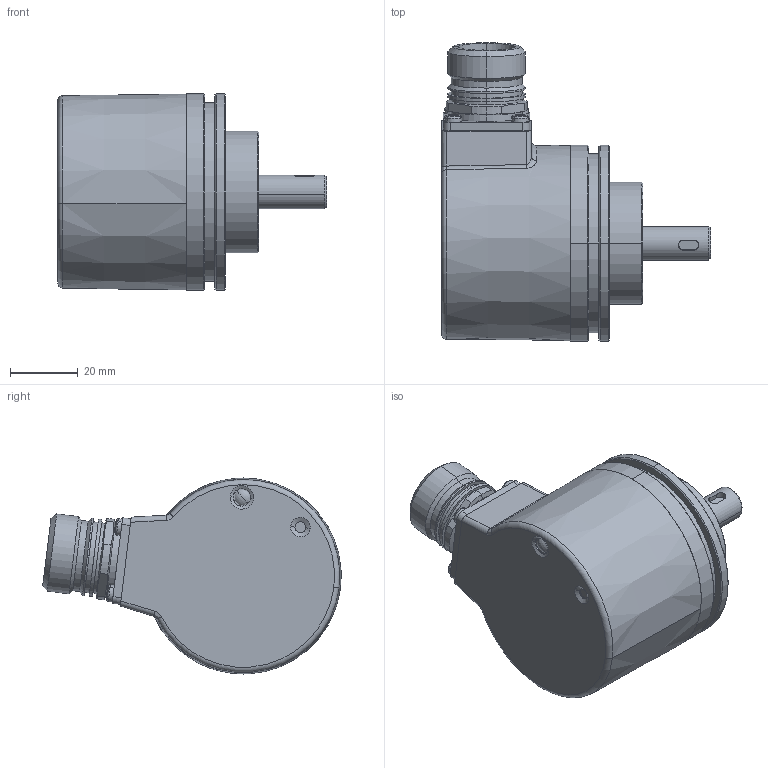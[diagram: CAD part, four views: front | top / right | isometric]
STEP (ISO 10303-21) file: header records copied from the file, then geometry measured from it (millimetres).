
FILE_DESCRIPTION (( 'STEP AP214' ), '1' );
FILE_NAME ('5863SIL.1AX4.XXXX.STEP', '2010-11-03T07:57:30', ( 'admin' ), ( 'Fritz Kübler GmbH' ), 'SwSTEP 2.0', 'SolidWorks 2009', '' );
FILE_SCHEMA (( 'AUTOMOTIVE_DESIGN' ));
Length unit declared in the file: millimetre
Products named in the file (1): 5863SIL.1AX4.XXXX
Bounding box: 79.6 x 88.28 x 58 mm (x, y, z)
Surface area: 24553.3 mm2 (no closed solid volume)
Topology: 0 solids, 27 shells, 332 faces, 853 edges, 542 vertices
Faces by surface type: cylinder 137, plane 93, cone 42, sphere 34, torus 20, bspline 6
Entity records: 14924 total; most frequent: CARTESIAN_POINT 2991, DIRECTION 1952, ORIENTED_EDGE 1520, EDGE_CURVE 829, AXIS2_PLACEMENT_3D 824, VERTEX_POINT 542, CIRCLE 497, EDGE_LOOP 385
